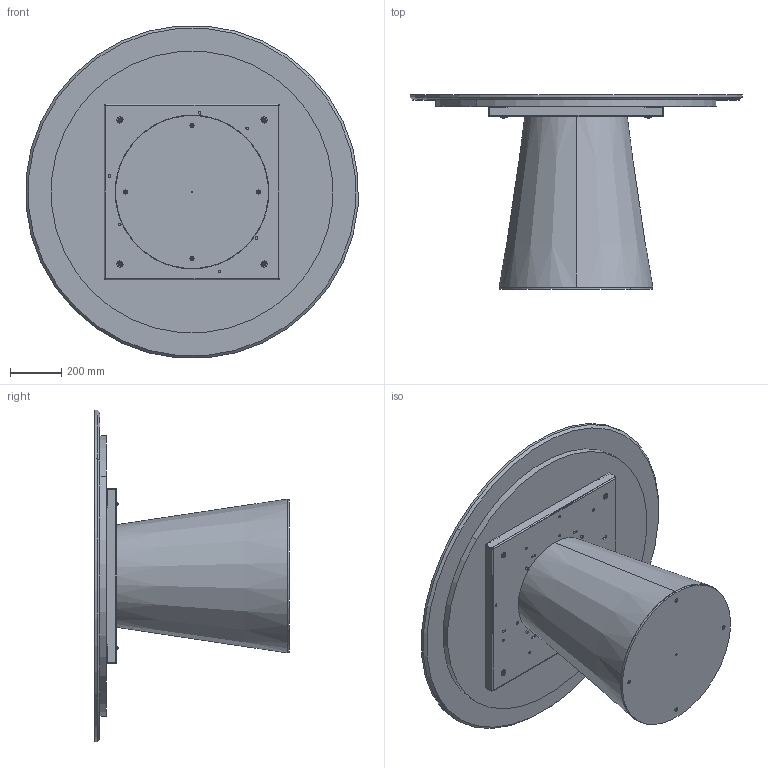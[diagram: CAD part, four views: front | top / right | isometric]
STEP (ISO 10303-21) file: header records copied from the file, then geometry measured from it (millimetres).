
FILE_DESCRIPTION (( 'STEP AP203' ), '1' );
FILE_NAME ('TO05M_Teo_d.130_Marble.STEP', '2024-08-02T09:17:38', ( '' ), ( '' ), 'SwSTEP 2.0', 'SolidWorks 2022', '' );
FILE_SCHEMA (( 'CONFIG_CONTROL_DESIGN' ));
Length unit declared in the file: millimetre
Products named in the file (14): M0X-00- D. piani marmo_D.1300; TTAV0801-02-TELAIO UNIVERSALE TONDO; M0XMXX-00-Piani Rotondi in marmo 2024_1300; TEO000000PIA-00-TEO PIASTRA DI BASE IN METALLO GREZZO; M8xXXmm_M8x55mm; COLLO TELAIO UNIVERSALE TTAV0801 CON FERRAMENTA_MTG TOP LEGNO-MARMO-KING; TTAV0801 TELAIO UNIVERSALE TONDO-PIASTRINA; M8xXXmm_hex_M8X20mm; rondella M8_8X24; TO05M_Teo_d.130_Marble; TRU0000X-00-SOTTO PIANO D.XXXXmm_TRU00002 D.110cm ; BASE TED LEGNO CON ZAVORRA; TTAV0801-02-TELAIO UNIVERSALE TONDO-VASSOIO; TEO0000-00-TEO BASE LEGNO IMPIALLACCIATA LEVIGATO PRONTA X VERNICE
Assembly tree (25 placements, depth 4):
  TO05M_Teo_d.130_Marble
    BASE TED LEGNO CON ZAVORRA
      TEO000000PIA-00-TEO PIASTRA DI BASE IN METALLO GREZZO
      TEO0000-00-TEO BASE LEGNO IMPIALLACCIATA LEVIGATO PRONTA X VERNICE
      M8xXXmm_hex_M8X20mm  x4
    COLLO TELAIO UNIVERSALE TTAV0801 CON FERRAMENTA_MTG TOP LEGNO-MARMO-KING
      TTAV0801-02-TELAIO UNIVERSALE TONDO
        TTAV0801-02-TELAIO UNIVERSALE TONDO-VASSOIO
        TTAV0801 TELAIO UNIVERSALE TONDO-PIASTRINA  x4
      rondella M8_8X24  x4
      M8xXXmm_M8x55mm  x4
    M0XMXX-00-Piani Rotondi in marmo 2024_1300
      M0X-00- D. piani marmo_D.1300
      TRU0000X-00-SOTTO PIANO D.XXXXmm_TRU00002 D.110cm 
Bounding box: 1295.05 x 758.19 x 1295.05 mm (x, y, z)
Volume: 80346207 mm3; surface area: 9127346.9 mm2
Topology: 21 solids, 21 shells, 818 faces, 2040 edges, 1253 vertices
Faces by surface type: plane 372, cylinder 296, cone 94, torus 56
Entity records: 16156 total; most frequent: DIRECTION 2608, CARTESIAN_POINT 2504, ORIENTED_EDGE 2378, EDGE_CURVE 1189, AXIS2_PLACEMENT_3D 948, VERTEX_POINT 758, LINE 712, VECTOR 712
